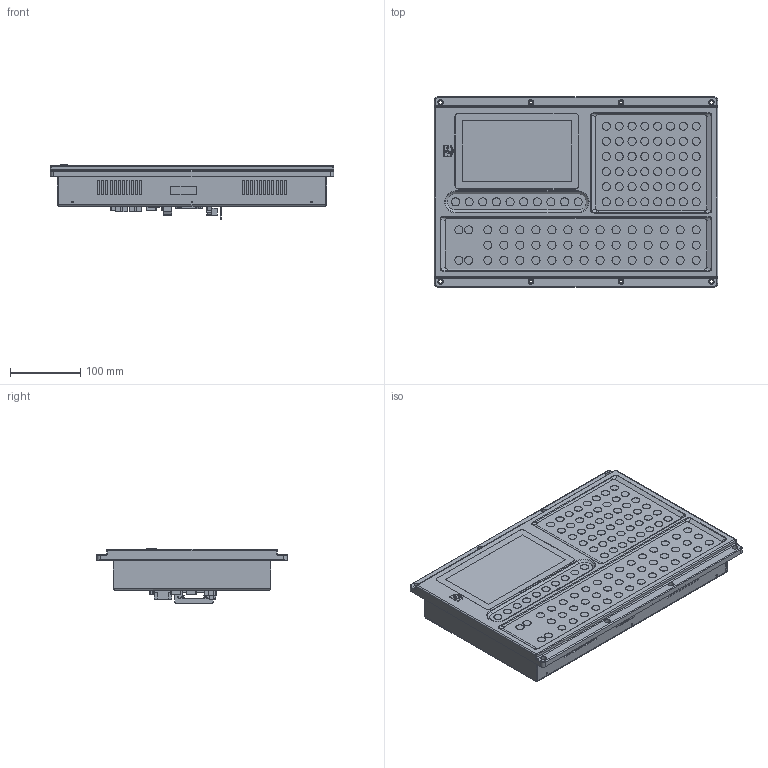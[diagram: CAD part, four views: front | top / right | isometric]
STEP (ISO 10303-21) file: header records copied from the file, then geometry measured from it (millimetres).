
FILE_DESCRIPTION (( 'STEP AP214' ), '1' );
FILE_NAME ('B-7寸简易型开窗尺寸2023.5.8.STEP', '2023-05-08T10:59:31', ( '' ), ( '' ), 'SwSTEP 2.0', 'SolidWorks 2018', '' );
FILE_SCHEMA (( 'AUTOMOTIVE_DESIGN' ));
Length unit declared in the file: millimetre
Products named in the file (1): B-7寸简易型开窗尺寸2023.5.8
Bounding box: 402 x 270 x 77.8 mm (x, y, z)
Volume: 4740904.4 mm3; surface area: 533496 mm2
Topology: 1 solids, 51 shells, 2043 faces, 5025 edges, 3350 vertices
Faces by surface type: plane 1499, cylinder 486, cone 22, bspline 20, torus 12, sphere 4
Full cylindrical faces by diameter (mm): 0.686 x52, 0.983 x3, 1.207 x8, 2.5 x9, 2.6 x3, 3 x4, 3.497 x1, 3.5 x7, 3.8 x8, 4.5 x9, 4.8 x8, 5.4 x1, 5.5 x1, 8 x8, 11.5 x104
Entity records: 58071 total; most frequent: CARTESIAN_POINT 10874, DIRECTION 9502, ORIENTED_EDGE 9266, EDGE_CURVE 4633, VECTOR 3472, LINE 3472, VERTEX_POINT 3198, AXIS2_PLACEMENT_3D 3015
